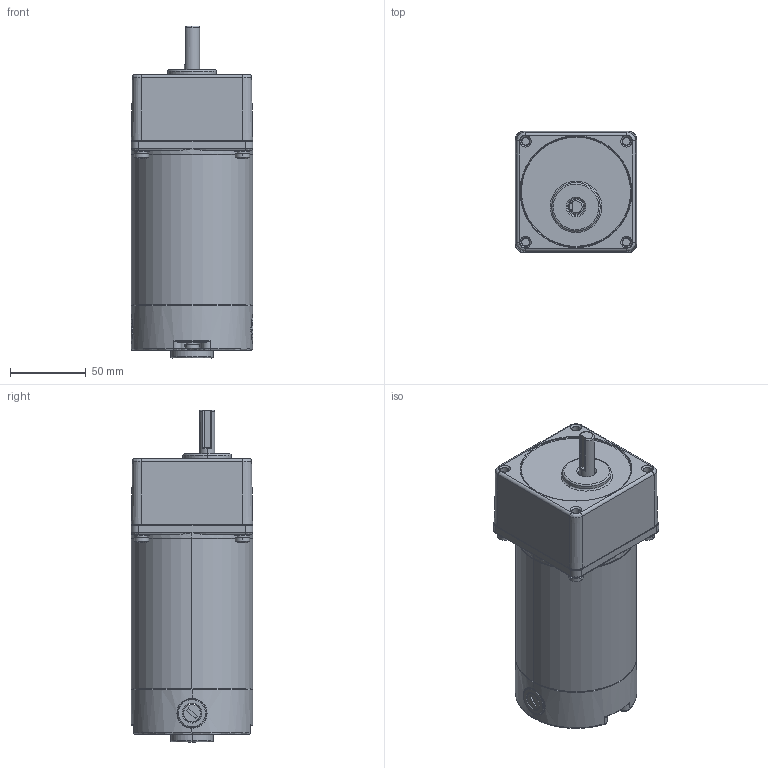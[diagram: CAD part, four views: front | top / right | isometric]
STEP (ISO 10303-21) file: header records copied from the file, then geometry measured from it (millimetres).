
FILE_DESCRIPTION (( 'STEP AP203' ), '1' );
FILE_NAME ('80饜4GN喘謫眊-99儂褲.STEP', '2021-07-12T09:55:12', ( '' ), ( '' ), 'SwSTEP 2.0', 'SolidWorks 2021', '' );
FILE_SCHEMA (( 'CONFIG_CONTROL_DESIGN' ));
Length unit declared in the file: millimetre
Products named in the file (8): 80饜4GN喘謫眊-99儂褲; QIANGAI-80_1_1; HOUGAI-80-1_1; 80-2_1; JIKEI-80_1_1_1; TANDIAN_1; PENGDIAN_1; LUDING_1
Assembly tree (22 placements, depth 2):
  80饜4GN喘謫眊-99儂褲
    LUDING_1  x6
    TANDIAN_1  x6
    PENGDIAN_1  x6
    QIANGAI-80_1_1
    HOUGAI-80-1_1
    JIKEI-80_1_1_1
    80-2_1
Bounding box: 80 x 80 x 219 mm (x, y, z)
Volume: 458991.3 mm3; surface area: 130308.6 mm2
Topology: 26 solids, 26 shells, 751 faces, 1848 edges, 1165 vertices
Faces by surface type: cylinder 252, plane 206, cone 203, bspline 90
Entity records: 18612 total; most frequent: CARTESIAN_POINT 7391, ORIENTED_EDGE 2104, DIRECTION 2078, EDGE_CURVE 1052, AXIS2_PLACEMENT_3D 823, VERTEX_POINT 660, EDGE_LOOP 498, CIRCLE 437
